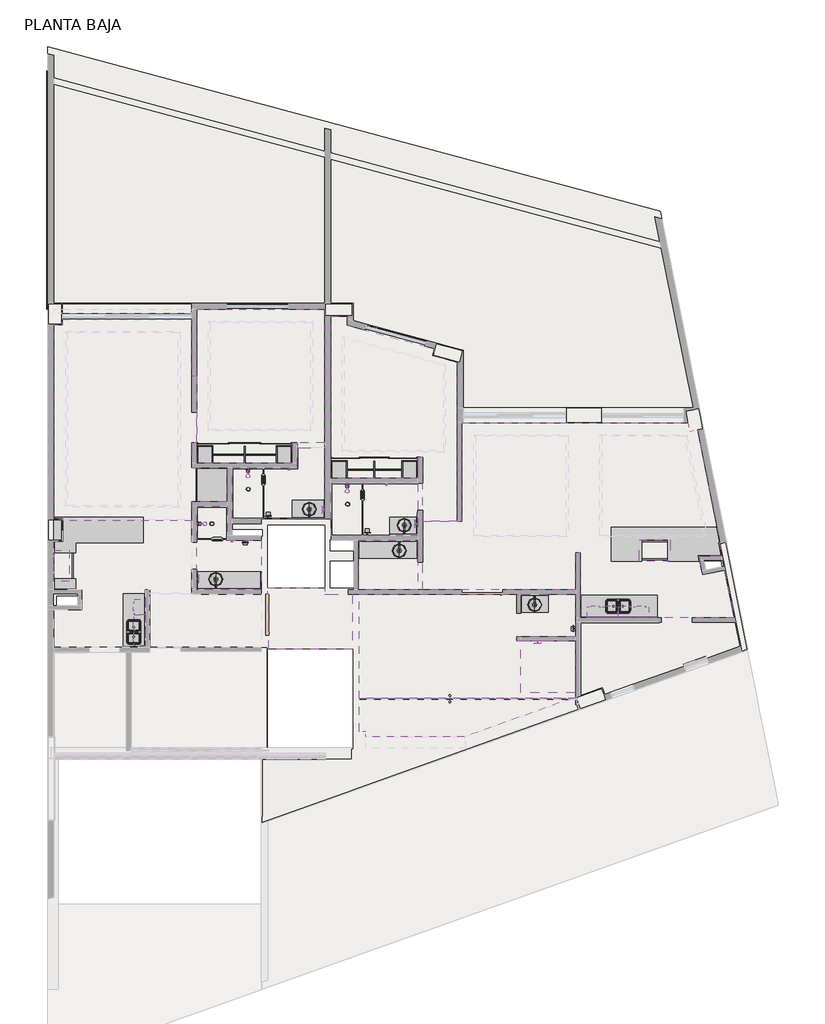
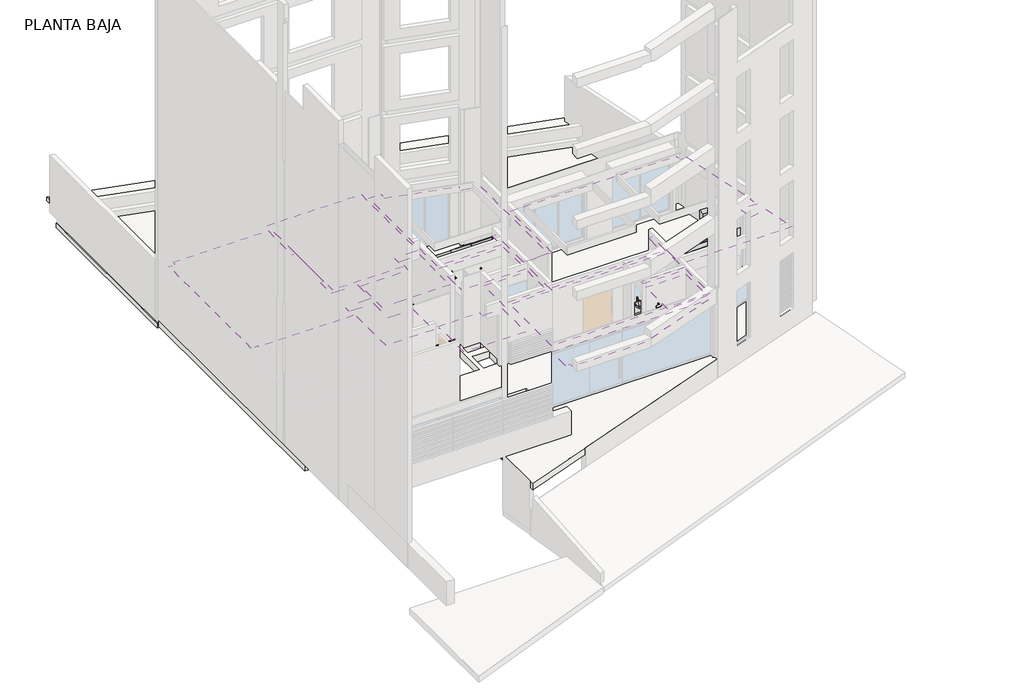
# One storey, part 8 of 8: 32 flow terminals, 31 furniture elements, 12 coverings, 3 slabs, 2 proxies.
"""IFC4 building model written with IfcOpenShell, lengths in millimetres."""

from ifc_helpers import new_model, si_unit, frame, origin, place, context, project, spatial, polyline, outline, extrude, faceted_brep, transform, mapped, element, save
from components import specialty_equipment_e95493f8, specialty_equipment_230eec82, flow_terminal_a2814962, flow_terminal_5cc0e8a1, flow_terminal_a7820e30, flow_terminal_68213279, flow_terminal_5f1bfaf6, flow_terminal_4524fc21, flow_terminal_6c50e432, flow_terminal_979eccb3, flow_terminal_b4af5928, flow_terminal_bcb3a9d6, flow_terminal_02720d88, flow_terminal_c6eb5854, flow_terminal_a64c8540, flow_terminal_974a7598, flow_terminal_6881f88f, flow_terminal_dbe0ad42, furniture_a8ddcfd3, furniture_091fd89b, furniture_2ba004f8, furniture_695d730f, furniture_c1e19565, furniture_76cf8c88, furniture_5ef42d0a, furniture_d922bd9b, furniture_9d35b11e, furniture_d21489d5, furniture_300_mm_33a7f38e, furniture_400_mm_prof_40_ac4916a1, furniture_450_x_600_x_320_mm_b980701e, furniture_64_mm_1e2b4716, furniture_660_mm_2161e34f, furniture_7700_mm_prof_40_e6cee792, furniture_860_mm_d80aeb4c, furniture_900_mm_f7b05b38, furniture_900_x_600_x_320_mm_ed7ff752, cl1_closet_f532f73a, cl2_closet_fc385fcd, closet_bajo_tv_1_puerta_doble_0b8a0936, cubierta_cubierta_f0816a31, cubierta1_cubierta_86d69f64

model = new_model("IFC4")

# Units and contexts
model_context = context("Model", 3, world=origin())
ifc_project = project(units=[si_unit("LENGTHUNIT", "METRE", prefix="MILLI")], contexts=[model_context])

# Site, building, storey
site = spatial("IfcSite", under=ifc_project)
building = spatial("IfcBuilding", under=site)
storey = spatial("IfcBuildingStorey", under=building, Name="PLANTA BAJA", Elevation=0.0)

# Proxies
placement = place(None, origin())
specialty_equipment_shape = specialty_equipment_e95493f8(model_context)
element("IfcBuildingElementProxy", 1, Name="Campana rectangular - muro : Campana rectangular - muro", ObjectType="Campana rectangular - muro : Campana rectangular - muro", at=placement, inside=storey, context=model_context, shape_type="MappedRepresentation", body=[
    mapped(specialty_equipment_shape, transform((34277.2089874, 30558.9942017, 250.0), x_axis=(0.0, 1.0, 0.0), y_axis=(-1.0, 0.0, 0.0), z_axis=(0.0, 0.0, 1.0))),
])
specialty_equipment_2_shape = specialty_equipment_230eec82(model_context)
element("IfcBuildingElementProxy", 2, Name="Campana rectangular - isla : Campana rectangular - isla", ObjectType="Campana rectangular - isla : Campana rectangular - isla", at=placement, inside=storey, context=model_context, shape_type="MappedRepresentation", body=[
    mapped(specialty_equipment_2_shape, transform((51766.9822189, 31014.0100923, 250.0), x_axis=(1.0, 0.0, 0.0), y_axis=(0.0, 1.0, 0.0), z_axis=(0.0, 0.0, 1.0))),
])

# Coverings
element("IfcCovering", 3, ObjectType="Plafond Tablaroca", at=placement, inside=storey, context=model_context, shape_type="SweptSolid", body=[
    extrude(outline(polyline([(44824.5251366, 31304.0104754), (44824.5251366, 29864.010184), (43074.5059119, 29864.010184), (43074.5059119, 31304.0104754), (44824.5251366, 31304.0104754)])), frame((0.0, 0.0, 2350.0), z_axis=(0.0, 0.0, 1.0), x_axis=(1.0, 0.0, 0.0)), (0.0, 0.0, 1.0), 52.7),
])
element("IfcCovering", 4, ObjectType="Plafond Tablaroca", at=placement, inside=storey, context=model_context, shape_type="SweptSolid", body=[
    extrude(outline(polyline([(47844.5059119, 26843.4657915), (47844.5059119, 28356.610184), (49444.5059119, 28356.610184), (49444.5059119, 26843.4657915), (47844.5059119, 26843.4657915)])), frame((0.0, 0.0, 2400.0), z_axis=(0.0, 0.0, 1.0), x_axis=(1.0, 0.0, 0.0)), (0.0, 0.0, 1.0), 52.7),
])
element("IfcCovering", 5, ObjectType="Plafond Tablaroca", at=placement, inside=storey, context=model_context, shape_type="SweptSolid", body=[
    extrude(outline(polyline([(44824.5251366, 31444.0104754), (42279.5059119, 31444.0104754), (42279.5059119, 31838.9733508), (42264.5059119, 31838.9733508), (42264.5059119, 32984.0113856), (44824.5251366, 32984.0113856), (44824.5251366, 31444.0104754)])), frame((0.0, 0.0, 2350.0), z_axis=(0.0, 0.0, 1.0), x_axis=(1.0, 0.0, 0.0)), (0.0, 0.0, 1.0), 52.7),
])
element("IfcCovering", 6, ObjectType="Plafond Tablaroca", at=placement, inside=storey, context=model_context, shape_type="SweptSolid", body=[
    extrude(outline(polyline([(39234.5300226, 31304.0104762), (40234.5059119, 31304.0104762), (40234.5059119, 29864.010184), (38334.5300226, 29864.010184), (38334.5300226, 32304.010477), (39234.5300226, 32304.010477), (39234.5300226, 31304.0104762)])), frame((0.0, 0.0, 2350.0), z_axis=(0.0, 0.0, 1.0), x_axis=(1.0, 0.0, 0.0)), (0.0, 0.0, 1.0), 52.7),
])
element("IfcCovering", 7, ObjectType="Plafond Tablaroca", at=placement, inside=storey, context=model_context, shape_type="SweptSolid", body=[
    extrude(outline(polyline([(42084.5059119, 31933.9733508), (40329.5059119, 31933.9733508), (39374.5300226, 31933.9733508), (39374.5300226, 33428.9784839), (41284.5059119, 33428.9784839), (41284.5059119, 34028.9785701), (42084.5059119, 34028.9785701), (42084.5059119, 31933.9733508)])), frame((0.0, 0.0, 2350.0), z_axis=(0.0, 0.0, 1.0), x_axis=(1.0, 0.0, 0.0)), (0.0, 0.0, 1.0), 52.7),
])
element("IfcCovering", 8, ObjectType="Plafond Tablaroca", at=placement, inside=storey, context=model_context, shape_type="Brep", body=[
    faceted_brep([(43109.5059119, 26682.1657915, 2652.7), (49444.5059119, 26682.1657915, 2652.7), (49444.5059119, 28356.610184, 2652.7), (47727.1059119, 28356.610184, 2652.7), (47727.1059119, 28474.010184, 2652.7), (47844.5059119, 28474.010184, 2652.7), (49444.5059119, 28474.010184, 2652.7), (49444.5059119, 29724.010184, 2652.7), (47844.5059119, 29724.010184, 2652.7), (47727.1059119, 29724.010184, 2652.7), (44894.5251366, 29724.010184, 2652.7), (43109.5059119, 29724.010184, 2652.7), (43109.5059119, 26682.1657915, 2600.0), (43109.5059119, 29724.010184, 2600.0), (44894.5251366, 29724.010184, 2600.0), (47727.1059119, 29724.010184, 2600.0), (47844.5059119, 29724.010184, 2600.0), (49444.5059119, 29724.010184, 2600.0), (49444.5059119, 28474.010184, 2600.0), (47844.5059119, 28474.010184, 2600.0), (47727.1059119, 28474.010184, 2600.0), (47727.1059119, 28356.610184, 2600.0), (49444.5059119, 28356.610184, 2600.0), (49444.5059119, 26682.1657915, 2600.0)], [[[0, 1, 2, 3, 4, 5, 6, 7, 8, 9, 10, 11]], [[12, 13, 14, 15, 16, 17, 18, 19, 20, 21, 22, 23]], [[1, 0, 12, 23]], [[4, 3, 21, 20]], [[6, 5, 4, 20, 19, 18]], [[7, 6, 18, 17]], [[10, 9, 8, 7, 17, 16, 15, 14]], [[11, 10, 14, 13]], [[0, 11, 13, 12]], [[2, 1, 23, 22]], [[3, 2, 22, 21]]]),
])
element("IfcCovering", 9, ObjectType="Plafond Tablaroca", at=placement, inside=storey, context=model_context, shape_type="SweptSolid", body=[
    extrude(outline(polyline([(42089.5059119, 29913.9733508), (42089.5059119, 29724.010184), (42899.5059119, 29724.010184), (42899.5059119, 28111.0432167), (40444.5059119, 28111.0432167), (40444.5059119, 29724.010184), (40424.5059119, 29724.010184), (40424.5059119, 29913.9733508), (42089.5059119, 29913.9733508)])), frame((0.0, 0.0, 2400.0), z_axis=(0.0, 0.0, 1.0), x_axis=(1.0, 0.0, 0.0)), (0.0, 0.0, 1.0), 52.7),
])
element("IfcCovering", 10, ObjectType="Plafond Tablaroca", at=placement, inside=storey, context=model_context, shape_type="Brep", body=[
    faceted_brep([(42084.5059119, 38080.4026232, 2502.7), (38334.5300226, 38080.4026232, 2502.7), (38334.5300226, 36136.8345544, 2502.7), (38334.5300226, 36124.6905967, 2502.7), (38334.5300226, 34168.9785701, 2502.7), (38334.5300226, 33568.9784839, 2502.7), (41144.5059119, 33568.9784839, 2502.7), (41144.5059119, 34168.9785701, 2502.7), (42084.5059119, 34168.9785701, 2502.7), (38734.5300226, 37680.4026232, 2502.7), (41684.5059119, 37680.4026232, 2502.7), (41684.5059119, 34568.9785701, 2502.7), (38734.5300226, 34568.9785701, 2502.7), (38334.5300226, 38080.4026232, 2450.0), (42084.5059119, 38080.4026232, 2450.0), (42084.5059119, 34168.9785701, 2450.0), (41144.5059119, 34168.9785701, 2450.0), (41144.5059119, 33568.9784839, 2450.0), (38334.5300226, 33568.9784839, 2450.0), (38334.5300226, 34168.9785701, 2450.0), (38334.5300226, 36124.6905967, 2450.0), (38334.5300226, 36136.8345544, 2450.0), (41684.5059119, 37680.4026232, 2450.0), (38734.5300226, 37680.4026232, 2450.0), (38734.5300226, 34568.9785701, 2450.0), (41684.5059119, 34568.9785701, 2450.0)], [[[0, 1, 2, 3, 4, 5, 6, 7, 8], [9, 10, 11, 12]], [[13, 14, 15, 16, 17, 18, 19, 20, 21], [22, 23, 24, 25]], [[1, 0, 14, 13]], [[1, 13, 21, 20, 19, 4, 3, 2]], [[5, 4, 19, 18]], [[6, 5, 18, 17]], [[7, 6, 17, 16]], [[8, 7, 16, 15]], [[0, 8, 15, 14]], [[10, 9, 23, 22]], [[11, 10, 22, 25]], [[12, 11, 25, 24]], [[9, 12, 24, 23]]]),
])
element("IfcCovering", 11, ObjectType="Plafond Tablaroca", at=placement, inside=storey, context=model_context, shape_type="Brep", body=[
    faceted_brep([(38194.5300226, 37790.7875956, 2502.7), (34398.8589874, 37790.7875956, 2502.7), (34398.8589874, 37625.4026232, 2502.7), (34143.8589874, 37625.4026232, 2502.7), (34143.8589874, 31928.9733508, 2502.7), (34403.8589874, 31928.9733508, 2502.7), (34403.8589874, 31876.2733508, 2502.7), (38194.5300226, 31876.2733508, 2502.7), (38194.5300226, 32444.010477, 2502.7), (39234.5300226, 32444.010477, 2502.7), (39234.5300226, 33428.9784839, 2502.7), (38194.5300226, 33428.9784839, 2502.7), (38194.5300226, 34168.9785701, 2502.7), (38334.5300226, 34168.9785701, 2502.7), (38334.5300226, 36124.6905967, 2502.7), (38334.5300226, 36136.8345544, 2502.7), (38194.5300226, 36136.8345544, 2502.7), (37794.5300226, 37390.7875956, 2502.7), (37794.5300226, 32333.9733508, 2502.7), (34542.7408562, 32333.9733508, 2502.7), (34542.7408562, 37390.7875956, 2502.7), (38194.5300226, 37790.7875956, 2450.0), (38194.5300226, 36136.8345544, 2450.0), (38334.5300226, 36136.8345544, 2450.0), (38334.5300226, 36124.6905967, 2450.0), (38334.5300226, 34168.9785701, 2450.0), (38194.5300226, 34168.9785701, 2450.0), (38194.5300226, 33428.9784839, 2450.0), (39234.5300226, 33428.9784839, 2450.0), (39234.5300226, 32444.010477, 2450.0), (38194.5300226, 32444.010477, 2450.0), (38194.5300226, 31928.9733508, 2450.0), (38194.5300226, 31876.2733508, 2450.0), (34403.8589874, 31876.2733508, 2450.0), (34403.8589874, 31928.9733508, 2450.0), (34143.8589874, 31928.9733508, 2450.0), (34143.8589874, 37625.4026232, 2450.0), (34398.8589874, 37625.4026232, 2450.0), (34398.8589874, 37790.7875956, 2450.0), (37794.5300226, 37390.7875956, 2450.0), (34542.7408562, 37390.7875956, 2450.0), (34542.7408562, 32333.9733508, 2450.0), (37794.5300226, 32333.9733508, 2450.0)], [[[0, 1, 2, 3, 4, 5, 6, 7, 8, 9, 10, 11, 12, 13, 14, 15, 16], [17, 18, 19, 20]], [[21, 22, 23, 24, 25, 26, 27, 28, 29, 30, 31, 32, 33, 34, 35, 36, 37, 38], [39, 40, 41, 42]], [[1, 0, 21, 38]], [[6, 5, 34, 33]], [[8, 7, 32, 31, 30]], [[9, 8, 30, 29]], [[10, 9, 29, 28]], [[11, 10, 28, 27]], [[12, 11, 27, 26]], [[2, 1, 38, 37]], [[3, 2, 37, 36]], [[4, 3, 36, 35]], [[5, 4, 35, 34]], [[13, 12, 26, 25]], [[14, 13, 25, 24]], [[15, 14, 24, 23]], [[16, 15, 23, 22]], [[0, 16, 22, 21]], [[18, 17, 39, 42]], [[19, 18, 42, 41]], [[20, 19, 41, 40]], [[17, 20, 40, 39]], [[7, 6, 33, 32]]]),
])
element("IfcCovering", 12, ObjectType="Plafond Tablaroca", at=placement, inside=storey, context=model_context, shape_type="SweptSolid", body=[
    extrude(outline(polyline([(42264.5059119, 33124.0113856), (42264.5059119, 37875.4026232), (42744.5059119, 37875.4026232), (42744.5059119, 37612.0750171), (45306.6362479, 36923.1191455), (45253.4028147, 36725.1514674), (45974.5059119, 36531.2471191), (45974.5059119, 31864.0100656), (44964.5251366, 31864.0100656), (44964.5251366, 33744.0113898), (44824.5251366, 33744.0113898), (44824.5251366, 33124.0113856), (42264.5059119, 33124.0113856)]), holes=[polyline([(45574.5059119, 33944.0113898), (45574.5059119, 36436.8800645), (42664.5059119, 37219.3779563), (42664.5059119, 33944.0113898), (45574.5059119, 33944.0113898)])]), frame((0.0, 0.0, 2350.0), z_axis=(0.0, 0.0, 1.0), x_axis=(1.0, 0.0, 0.0)), (0.0, 0.0, 1.0), 52.7),
])
element("IfcCovering", 13, ObjectType="Plafond Tablaroca", at=placement, inside=storey, context=model_context, shape_type="Brep", body=[
    faceted_brep([(44964.5251366, 29864.010184, 2402.7), (49444.5059119, 29864.010184, 2402.7), (49444.5059119, 30944.0100923, 2402.7), (49584.5059119, 30944.0100923, 2402.7), (49584.5059119, 29044.0100923, 2402.7), (54096.9995848, 29044.0100923, 2402.7), (53820.4344465, 30424.8416261, 2402.7), (53171.4946911, 30294.866239, 2402.7), (53061.5073088, 30844.0100923, 2402.7), (53736.479683, 30844.0100923, 2402.7), (53659.7028791, 31227.3405166, 2402.7), (53689.1186644, 31233.2321699, 2402.7), (53023.9513461, 34554.2726084, 2402.7), (52788.6250642, 34507.1393817, 2402.7), (52739.1795428, 34754.0104642, 2402.7), (46114.5059119, 34754.0104642, 2402.7), (46114.5059119, 31864.0100656, 2402.7), (45974.5059119, 31864.0100656, 2402.7), (44964.5251366, 31864.0100656, 2402.7), (49174.5059119, 34354.0104642, 2402.7), (49174.5059119, 31464.0100656, 2402.7), (46514.5059119, 31464.0100656, 2402.7), (46514.5059119, 34354.0104642, 2402.7), (50214.4822189, 31464.0100656, 2402.7), (50214.4822189, 34354.0104642, 2402.7), (52656.1173826, 34354.0104642, 2402.7), (53234.9521938, 31464.0100656, 2402.7), (44964.5251366, 29864.010184, 2350.0), (44964.5251366, 31864.0100656, 2350.0), (45974.5059119, 31864.0100656, 2350.0), (46114.5059119, 31864.0100656, 2350.0), (46114.5059119, 34754.0104642, 2350.0), (52739.1795428, 34754.0104642, 2350.0), (52788.6250642, 34507.1393817, 2350.0), (53023.9513461, 34554.2726084, 2350.0), (53689.1186644, 31233.2321699, 2350.0), (53659.7028791, 31227.3405166, 2350.0), (53736.479683, 30844.0100923, 2350.0), (53061.5073088, 30844.0100923, 2350.0), (53171.4946911, 30294.866239, 2350.0), (53820.4344465, 30424.8416261, 2350.0), (54096.9995848, 29044.0100923, 2350.0), (49584.5059119, 29044.0100923, 2350.0), (49584.5059119, 30944.0100923, 2350.0), (49444.5059119, 30944.0100923, 2350.0), (49444.5059119, 29864.010184, 2350.0), (49174.5059119, 34354.0104642, 2350.0), (46514.5059119, 34354.0104642, 2350.0), (46514.5059119, 31464.0100656, 2350.0), (49174.5059119, 31464.0100656, 2350.0), (50214.4822189, 31464.0100656, 2350.0), (53234.9521938, 31464.0100656, 2350.0), (52656.1173826, 34354.0104642, 2350.0), (50214.4822189, 34354.0104642, 2350.0)], [[[0, 1, 2, 3, 4, 5, 6, 7, 8, 9, 10, 11, 12, 13, 14, 15, 16, 17, 18], [19, 20, 21, 22], [23, 24, 25, 26]], [[27, 28, 29, 30, 31, 32, 33, 34, 35, 36, 37, 38, 39, 40, 41, 42, 43, 44, 45], [46, 47, 48, 49], [50, 51, 52, 53]], [[1, 0, 27, 45]], [[2, 1, 45, 44]], [[3, 2, 44, 43]], [[4, 3, 43, 42]], [[5, 4, 42, 41]], [[6, 5, 41, 40]], [[7, 6, 40, 39]], [[8, 7, 39, 38]], [[9, 8, 38, 37]], [[10, 9, 37, 36]], [[11, 10, 36, 35]], [[12, 11, 35, 34]], [[13, 12, 34, 33]], [[14, 13, 33, 32]], [[15, 14, 32, 31]], [[16, 15, 31, 30]], [[18, 17, 16, 30, 29, 28]], [[0, 18, 28, 27]], [[20, 19, 46, 49]], [[21, 20, 49, 48]], [[22, 21, 48, 47]], [[19, 22, 47, 46]], [[24, 23, 50, 53]], [[25, 24, 53, 52]], [[26, 25, 52, 51]], [[23, 26, 51, 50]]]),
])
element("IfcCovering", 14, ObjectType="Plafond Tablaroca", at=placement, inside=storey, context=model_context, shape_type="SweptSolid", body=[
    extrude(outline(polyline([(46181.4938279, 25545.2541962), (43289.5059119, 25545.2541962), (43289.5059119, 25694.0112971), (43109.5059119, 25694.0112971), (43109.5059119, 26682.1657915), (49371.8971857, 26682.1657915), (46181.4938279, 25545.2541962)])), frame((0.0, 0.0, 2350.0), z_axis=(0.0, 0.0, 1.0), x_axis=(1.0, 0.0, 0.0)), (0.0, 0.0, 1.0), 52.7),
])

# Flow terminals
flow_terminal_shape = flow_terminal_a2814962(model_context)
element("IfcFlowTerminal", 15, ObjectType="Ovalin sobreponer maia - vitromex : Accesorios_baño", at=placement, inside=storey, context=model_context, shape_type="MappedRepresentation", body=[
    mapped(flow_terminal_shape, transform((44274.5251366, 31001.9733508, 0.0), x_axis=(0.0, -1.0, 0.0), y_axis=(1.0, 0.0, 0.0), z_axis=(0.0, 0.0, 1.0))),
])
element("IfcFlowTerminal", 16, ObjectType="Ovalin sobreponer maia - vitromex : Accesorios_baño", at=placement, inside=storey, context=model_context, shape_type="MappedRepresentation", body=[
    mapped(flow_terminal_shape, transform((48244.5059119, 29418.4704552, 0.0), x_axis=(0.0, -1.0, 0.0), y_axis=(1.0, 0.0, 0.0), z_axis=(0.0, 0.0, 1.0))),
])
element("IfcFlowTerminal", 17, ObjectType="Ovalin sobreponer maia - vitromex : Accesorios_baño", at=placement, inside=storey, context=model_context, shape_type="MappedRepresentation", body=[
    mapped(flow_terminal_shape, transform((38899.5059119, 30166.0473102, 0.0), x_axis=(0.0, 1.0, 0.0), y_axis=(-1.0, 0.0, 0.0), z_axis=(0.0, 0.0, 1.0))),
])
flow_terminal_2_shape = flow_terminal_5cc0e8a1(model_context)
element("IfcFlowTerminal", 18, ObjectType="monomando lavabo - tubo : monomando lavabo - tubo", at=placement, inside=storey, context=model_context, shape_type="MappedRepresentation", body=[
    mapped(flow_terminal_2_shape, transform((44274.5251366, 31241.9733508, 0.0), x_axis=(1.0, 0.0, 0.0), y_axis=(0.0, 1.0, 0.0), z_axis=(0.0, 0.0, 1.0))),
])
element("IfcFlowTerminal", 19, ObjectType="monomando lavabo - tubo : monomando lavabo - tubo", at=placement, inside=storey, context=model_context, shape_type="MappedRepresentation", body=[
    mapped(flow_terminal_2_shape, transform((48244.5059119, 29658.4704552, 0.0), x_axis=(1.0, 0.0, 0.0), y_axis=(0.0, 1.0, 0.0), z_axis=(0.0, 0.0, 1.0))),
])
element("IfcFlowTerminal", 20, ObjectType="monomando lavabo - tubo : monomando lavabo - tubo", at=placement, inside=storey, context=model_context, shape_type="MappedRepresentation", body=[
    mapped(flow_terminal_2_shape, transform((38899.5059119, 29926.0473102, 0.0), x_axis=(-1.0, 0.0, 0.0), y_axis=(0.0, -1.0, 0.0), z_axis=(0.0, 0.0, 1.0))),
])
flow_terminal_3_shape = flow_terminal_a7820e30(model_context)
element("IfcFlowTerminal", 21, ObjectType="monomando lavabo - tubo : monomando lavabo - tubo", at=placement, inside=storey, context=model_context, shape_type="MappedRepresentation", body=[
    mapped(flow_terminal_3_shape, transform((41634.5059119, 31978.9733508, 0.0), x_axis=(1.0, 0.0, 0.0), y_axis=(0.0, 1.0, 0.0), z_axis=(0.0, 0.0, 1.0))),
])
element("IfcFlowTerminal", 22, ObjectType="monomando lavabo - tubo : monomando lavabo - tubo", at=placement, inside=storey, context=model_context, shape_type="MappedRepresentation", body=[
    mapped(flow_terminal_3_shape, transform((44424.5034689, 31514.0104755, 0.0), x_axis=(1.0, 0.0, 0.0), y_axis=(0.0, 1.0, 0.0), z_axis=(0.0, 0.0, 1.0))),
])
flow_terminal_4_shape = flow_terminal_68213279(model_context)
element("IfcFlowTerminal", 23, ObjectType="Ovalin sobreponer maia - vitromex : Accesorios_baño", at=placement, inside=storey, context=model_context, shape_type="MappedRepresentation", body=[
    mapped(flow_terminal_4_shape, transform((41634.5059119, 32218.9733508, 0.0), x_axis=(0.0, 1.0, 0.0), y_axis=(-1.0, 0.0, 0.0), z_axis=(0.0, 0.0, 1.0))),
])
element("IfcFlowTerminal", 24, ObjectType="Ovalin sobreponer maia - vitromex : Accesorios_baño", at=placement, inside=storey, context=model_context, shape_type="MappedRepresentation", body=[
    mapped(flow_terminal_4_shape, transform((44424.5034689, 31754.0104755, 0.0), x_axis=(0.0, 1.0, 0.0), y_axis=(-1.0, 0.0, 0.0), z_axis=(0.0, 0.0, 1.0))),
])
flow_terminal_5_shape = flow_terminal_5f1bfaf6(model_context)
element("IfcFlowTerminal", 25, ObjectType="Regadera : Accesorios_baño", at=placement, inside=storey, context=model_context, shape_type="MappedRepresentation", body=[
    mapped(flow_terminal_5_shape, transform((39964.5300226, 33498.9784839, 151.7905899), x_axis=(-1.0, 0.0, 0.0), y_axis=(0.0, -1.0, 0.0), z_axis=(0.0, 0.0, 1.0))),
])
element("IfcFlowTerminal", 26, ObjectType="Regadera : Accesorios_baño", at=placement, inside=storey, context=model_context, shape_type="MappedRepresentation", body=[
    mapped(flow_terminal_5_shape, transform((38264.5300226, 31919.010477, 151.7905899), x_axis=(0.0, -1.0, 0.0), y_axis=(1.0, 0.0, 0.0), z_axis=(0.0, 0.0, 1.0))),
])
flow_terminal_6_shape = flow_terminal_4524fc21(model_context)
element("IfcFlowTerminal", 27, ObjectType="Toallero Dica 1009 : Toallero Dica manos 1009", at=placement, inside=storey, context=model_context, shape_type="MappedRepresentation", body=[
    mapped(flow_terminal_6_shape, transform((42174.5059119, 32078.9733508, 1548.657459), x_axis=(0.0, 1.0, 0.0), y_axis=(-1.0, 0.0, 0.0), z_axis=(0.0, 0.0, 1.0))),
])
flow_terminal_7_shape = flow_terminal_6c50e432(model_context)
element("IfcFlowTerminal", 28, ObjectType="Portarrollo Dica 1017 : Portarrollos Dica 1017", at=placement, inside=storey, context=model_context, shape_type="MappedRepresentation", body=[
    mapped(flow_terminal_7_shape, transform((40305.6006283, 31943.9733508, 502.2787162), x_axis=(1.0, 0.0, 0.0), y_axis=(0.0, 1.0, 0.0), z_axis=(0.0, 0.0, 1.0))),
])
element("IfcFlowTerminal", 29, ObjectType="Portarrollo Dica 1017 : Portarrollos Dica 1017", at=placement, inside=storey, context=model_context, shape_type="MappedRepresentation", body=[
    mapped(flow_terminal_7_shape, transform((43214.5059119, 31454.0104754, 502.2787162), x_axis=(1.0, 0.0, 0.0), y_axis=(0.0, 1.0, 0.0), z_axis=(0.0, 0.0, 1.0))),
])
flow_terminal_8_shape = flow_terminal_979eccb3(model_context)
element("IfcFlowTerminal", 30, ObjectType="Monomando Dica 4473.9 : Accesorios_baño", at=placement, inside=storey, context=model_context, shape_type="MappedRepresentation", body=[
    mapped(flow_terminal_8_shape, transform((39964.5300226, 33418.9784839, 0.0), x_axis=(-1.0, 0.0, 0.0), y_axis=(0.0, -1.0, 0.0), z_axis=(0.0, 0.0, 1.0))),
])
element("IfcFlowTerminal", 31, ObjectType="Monomando Dica 4473.9 : Accesorios_baño", at=placement, inside=storey, context=model_context, shape_type="MappedRepresentation", body=[
    mapped(flow_terminal_8_shape, transform((42874.5059119, 32974.0113856, -2.8674323), x_axis=(-1.0, 0.0, 0.0), y_axis=(0.0, -1.0, 0.0), z_axis=(0.0, 0.0, 1.0))),
])
element("IfcFlowTerminal", 32, ObjectType="Monomando Dica 4473.9 : Accesorios_baño", at=placement, inside=storey, context=model_context, shape_type="MappedRepresentation", body=[
    mapped(flow_terminal_8_shape, transform((38344.5300226, 31919.010477, 0.0), x_axis=(0.0, -1.0, 0.0), y_axis=(1.0, 0.0, 0.0), z_axis=(0.0, 0.0, 1.0))),
])
flow_terminal_9_shape = flow_terminal_b4af5928(model_context)
element("IfcFlowTerminal", 33, ObjectType="Coladera : COLADERA PARA REGADERA", at=placement, inside=storey, context=model_context, shape_type="MappedRepresentation", body=[
    mapped(flow_terminal_9_shape, transform((39847.2800226, 32808.9784839, 0.0), x_axis=(1.0, 0.0, 0.0), y_axis=(0.0, 1.0, 0.0), z_axis=(0.0, 0.0, 1.0))),
])
element("IfcFlowTerminal", 34, ObjectType="Coladera : COLADERA PARA REGADERA", at=placement, inside=storey, context=model_context, shape_type="MappedRepresentation", body=[
    mapped(flow_terminal_9_shape, transform((42759.5059119, 32364.0113856, 0.0), x_axis=(1.0, 0.0, 0.0), y_axis=(0.0, 1.0, 0.0), z_axis=(0.0, 0.0, 1.0))),
])
element("IfcFlowTerminal", 35, ObjectType="Coladera : COLADERA PARA REGADERA", at=placement, inside=storey, context=model_context, shape_type="MappedRepresentation", body=[
    mapped(flow_terminal_9_shape, transform((38784.5300226, 31794.010477, 0.0), x_axis=(1.0, 0.0, 0.0), y_axis=(0.0, 1.0, 0.0), z_axis=(0.0, 0.0, 1.0))),
])
flow_terminal_10_shape = flow_terminal_bcb3a9d6(model_context)
element("IfcFlowTerminal", 36, ObjectType="Toallero gancho Dica 1006 : Toallero gancho Dica 1006", at=placement, inside=storey, context=model_context, shape_type="MappedRepresentation", body=[
    mapped(flow_terminal_10_shape, transform((41169.5059119, 33418.9784839, 1795.0), x_axis=(-1.0, 0.0, 0.0), y_axis=(0.0, -1.0, 0.0), z_axis=(0.0, 0.0, 1.0))),
])
element("IfcFlowTerminal", 37, ObjectType="Toallero gancho Dica 1006 : Toallero gancho Dica 1006", at=placement, inside=storey, context=model_context, shape_type="MappedRepresentation", body=[
    mapped(flow_terminal_10_shape, transform((44024.5059119, 32974.0113856, 1795.0), x_axis=(-1.0, 0.0, 0.0), y_axis=(0.0, -1.0, 0.0), z_axis=(0.0, 0.0, 1.0))),
])
element("IfcFlowTerminal", 38, ObjectType="Regadera : Accesorios_baño", at=placement, inside=storey, context=model_context, shape_type="MappedRepresentation", body=[
    mapped(flow_terminal_5_shape, transform((42874.5059119, 33054.0113856, 151.7905899), x_axis=(-1.0, 0.0, 0.0), y_axis=(0.0, -1.0, 0.0), z_axis=(0.0, 0.0, 1.0))),
])
flow_terminal_11_shape = flow_terminal_02720d88(model_context)
element("IfcFlowTerminal", 39, ObjectType="Toallero Dica 1009 : Toallero Dica manos 1009", at=placement, inside=storey, context=model_context, shape_type="MappedRepresentation", body=[
    mapped(flow_terminal_11_shape, transform((44814.5251366, 31664.0109305, 1548.657459), x_axis=(0.0, 1.0, 0.0), y_axis=(-1.0, 0.0, 0.0), z_axis=(0.0, 0.0, 1.0))),
])
flow_terminal_12_shape = flow_terminal_c6eb5854(model_context)
element("IfcFlowTerminal", 40, ObjectType="Toallero Dica 1009 : Toallero Dica manos 1009", at=placement, inside=storey, context=model_context, shape_type="MappedRepresentation", body=[
    mapped(flow_terminal_12_shape, transform((48454.4828826, 28415.310184, 1548.657459), x_axis=(-1.0, 0.0, 0.0), y_axis=(0.0, -1.0, 0.0), z_axis=(0.0, 0.0, 1.0))),
])
flow_terminal_13_shape = flow_terminal_a64c8540(model_context)
element("IfcFlowTerminal", 41, ObjectType="Portarrollo Dica 1017 : Portarrollos Dica 1017", at=placement, inside=storey, context=model_context, shape_type="MappedRepresentation", body=[
    mapped(flow_terminal_13_shape, transform((39889.5300226, 31374.010477, 502.2787162), x_axis=(-1.0, 0.0, 0.0), y_axis=(0.0, -1.0, 0.0), z_axis=(0.0, 0.0, 1.0))),
])
flow_terminal_14_shape = flow_terminal_974a7598(model_context)
element("IfcFlowTerminal", 42, ObjectType="Toallero Dica 1009 : Toallero Dica manos 1009", at=placement, inside=storey, context=model_context, shape_type="MappedRepresentation", body=[
    mapped(flow_terminal_14_shape, transform((38264.5300226, 30299.010184, 1548.657459), x_axis=(0.0, -1.0, 0.0), y_axis=(1.0, 0.0, 0.0), z_axis=(0.0, 0.0, 1.0))),
])
element("IfcFlowTerminal", 43, ObjectType="Portarrollo Dica 1017 : Portarrollos Dica 1017", at=placement, inside=storey, context=model_context, shape_type="MappedRepresentation", body=[
    mapped(flow_terminal_13_shape, transform((49514.5059119, 28590.310184, 502.2787162), x_axis=(0.0, 1.0, 0.0), y_axis=(-1.0, 0.0, 0.0), z_axis=(0.0, 0.0, 1.0))),
])
flow_terminal_15_shape = flow_terminal_6881f88f(model_context)
element("IfcFlowTerminal", 44, ObjectType="Toallero gancho Dica 1006 : Toallero gancho Dica 1006", at=placement, inside=storey, context=model_context, shape_type="MappedRepresentation", body=[
    mapped(flow_terminal_15_shape, transform((39489.5300226, 31374.010477, 1795.0), x_axis=(-1.0, 0.0, 0.0), y_axis=(0.0, -1.0, 0.0), z_axis=(0.0, 0.0, 1.0))),
])
flow_terminal_16_shape = flow_terminal_dbe0ad42(model_context)
element("IfcFlowTerminal", 45, ObjectType="Tarja Teka subm BE 780 : TARJA PARA COCINA", at=placement, inside=storey, context=model_context, shape_type="MappedRepresentation", body=[
    mapped(flow_terminal_16_shape, transform((50638.3166714, 29356.1646912, -37.1), x_axis=(1.0, 0.0, 0.0), y_axis=(0.0, 1.0, 0.0), z_axis=(0.0, 0.0, 1.0))),
])
element("IfcFlowTerminal", 46, ObjectType="Tarja Teka subm BE 780 : TARJA PARA COCINA", at=placement, inside=storey, context=model_context, shape_type="MappedRepresentation", body=[
    mapped(flow_terminal_16_shape, transform((36472.9846215, 28678.2324573, -37.1), x_axis=(0.0, -1.0000000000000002, 0.0), y_axis=(1.0000000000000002, 0.0, 0.0), z_axis=(0.0, 0.0, 1.0))),
])

# Furniture
furniture_shape = furniture_a8ddcfd3(model_context)
element("IfcFurniture", 47, ObjectType="Puerta Closet corre 3 hojas : Puerta corrdiza 3 hojas PCL-02", at=placement, inside=storey, context=model_context, shape_type="MappedRepresentation", body=[
    mapped(furniture_shape, transform((43554.5251366, 33624.0113898, 0.0), x_axis=(1.0, 0.0, 0.0), y_axis=(0.0, 1.0, 0.0), z_axis=(0.0, 0.0, 1.0))),
])
furniture_2_shape = furniture_091fd89b(model_context)
element("IfcFurniture", 48, ObjectType="Puerta Closet corre 3 hojas : Puerta corrdiza 3 hojas PCL-01", at=placement, inside=storey, context=model_context, shape_type="MappedRepresentation", body=[
    mapped(furniture_2_shape, transform((39624.5300226, 34048.9785701, 0.0), x_axis=(1.0, 0.0, 0.0), y_axis=(0.0, 1.0, 0.0), z_axis=(0.0, 0.0, 1.0))),
])
furniture_3_shape = furniture_2ba004f8(model_context)
element("IfcFurniture", 49, ObjectType="Mueble colgado 1 cajon - lavabo sobreponer : MB1b-mueble baño colgado-1 cajon - 90cm", at=placement, inside=storey, context=model_context, shape_type="MappedRepresentation", body=[
    mapped(furniture_3_shape, transform((41484.5059119, 31943.9733508, 0.0), x_axis=(1.0, 0.0, 0.0), y_axis=(0.0, 1.0, 0.0), z_axis=(0.0, 0.0, 1.0))),
])
furniture_4_shape = furniture_695d730f(model_context)
element("IfcFurniture", 50, ObjectType="Mueble colgado 1 cajon - lavabo sobreponer : MB4-mueble baño colgado-1 cajon 80 cm", at=placement, inside=storey, context=model_context, shape_type="MappedRepresentation", body=[
    mapped(furniture_4_shape, transform((44279.5251366, 31454.0104754, 0.0), x_axis=(1.0, 0.0, 0.0), y_axis=(0.0, 1.0, 0.0), z_axis=(0.0, 0.0, 1.0))),
])
furniture_5_shape = furniture_c1e19565(model_context)
element("IfcFurniture", 51, ObjectType="Mueble con faldon sin cajones - lavabo sobreponer : MB8-mueble baño colgado- 1.75cm", at=placement, inside=storey, context=model_context, shape_type="MappedRepresentation", body=[
    mapped(furniture_5_shape, transform((44074.5251366, 31374.0104755, 0.0), x_axis=(-1.0, 0.0, 0.0), y_axis=(0.0, -1.0, 0.0), z_axis=(0.0, 0.0, 1.0))),
])
furniture_6_shape = furniture_76cf8c88(model_context)
element("IfcFurniture", 52, ObjectType="Mueble con faldon sin cajones - lavabo sobreponer : MB9-mueble baño colgado-80 cm", at=placement, inside=storey, context=model_context, shape_type="MappedRepresentation", body=[
    mapped(furniture_6_shape, transform((48369.5059119, 29794.010184, 0.0), x_axis=(-1.0, 0.0, 0.0), y_axis=(0.0, -1.0, 0.0), z_axis=(0.0, 0.0, 1.0))),
])
furniture_7_shape = furniture_5ef42d0a(model_context)
element("IfcFurniture", 53, ObjectType="Mueble colgado 1 cajon 1 fijo- lavabo sobreponer : MB10-Mueble baño colgado-1 cajon - 1 fijo", at=placement, inside=storey, context=model_context, shape_type="MappedRepresentation", body=[
    mapped(furniture_7_shape, transform((39134.5059119, 29794.010184, 0.0), x_axis=(1.0, 0.0, 0.0), y_axis=(0.0, 1.0, 0.0), z_axis=(0.0, 0.0, 1.0))),
])
furniture_8_shape = furniture_d922bd9b(model_context)
element("IfcFurniture", 54, ObjectType="ajuste mueble - esquinas1 : ajuste mueble - esquinas", at=placement, inside=storey, context=model_context, shape_type="MappedRepresentation", body=[
    mapped(furniture_8_shape, transform((0.0, 0.0, 0.0), x_axis=(1.0, 0.0, 0.0), y_axis=(0.0, 1.0, 0.0), z_axis=(0.0, 0.0, 1.0))),
])
furniture_9_shape = furniture_9d35b11e(model_context)
element("IfcFurniture", 55, ObjectType="ajuste mueble - esquinas2 : ajuste mueble - esquinas", at=placement, inside=storey, context=model_context, shape_type="MappedRepresentation", body=[
    mapped(furniture_9_shape, transform((0.0, 0.0, 0.0), x_axis=(1.0, 0.0, 0.0), y_axis=(0.0, 1.0, 0.0), z_axis=(0.0, 0.0, 1.0))),
])
furniture_10_shape = furniture_d21489d5(model_context)
element("IfcFurniture", 56, ObjectType="ajuste mueble - esquinas3 : ajuste mueble - esquinas", at=placement, inside=storey, context=model_context, shape_type="MappedRepresentation", body=[
    mapped(furniture_10_shape, transform((18356.9351407, -325.0098305, 0.0), x_axis=(1.0, 0.0, 0.0), y_axis=(0.0, 1.0, 0.0), z_axis=(0.0, 0.0, 1.0))),
])
furniture_300_mm_shape = furniture_300_mm_33a7f38e(model_context)
element("IfcFurniture", 57, ObjectType="Armario 3 cajones : 300 mm", at=placement, inside=storey, context=model_context, shape_type="MappedRepresentation", body=[
    mapped(furniture_300_mm_shape, transform((34163.8589874, 30047.6801335, 0.0), x_axis=(0.0, -1.0, 0.0), y_axis=(1.0, 0.0, 0.0), z_axis=(0.0, 0.0, 1.0))),
])
element("IfcFurniture", 58, ObjectType="Armario 3 cajones : 300 mm", at=placement, inside=storey, context=model_context, shape_type="MappedRepresentation", body=[
    mapped(furniture_300_mm_shape, transform((34163.8589874, 31107.6801335, 0.0), x_axis=(0.0, -1.0, 0.0), y_axis=(1.0, 0.0, 0.0), z_axis=(0.0, 0.0, 1.0))),
])
furniture_400_mm_prof_40_shape = furniture_400_mm_prof_40_ac4916a1(model_context)
element("IfcFurniture", 59, ObjectType="Armario-Una puerta : 400 mm prof 40", at=placement, inside=storey, context=model_context, shape_type="MappedRepresentation", body=[
    mapped(furniture_400_mm_prof_40_shape, transform((36561.2966924, 31671.3005493, 0.0), x_axis=(-1.0, 0.0, 0.0), y_axis=(0.0, -1.0, 0.0), z_axis=(0.0, 0.0, 1.0))),
])
furniture_450_x_600_x_320_mm_shape = furniture_450_x_600_x_320_mm_b980701e(model_context)
element("IfcFurniture", 60, ObjectType="Armario superior - Puerta simple : 450 x 600 x 320 mm", at=placement, inside=storey, context=model_context, shape_type="MappedRepresentation", body=[
    mapped(furniture_450_x_600_x_320_mm_shape, transform((36895.8300226, 29174.010184, 0.0), x_axis=(0.0, 1.0, 0.0), y_axis=(-1.0, 0.0, 0.0), z_axis=(0.0, 0.0, 1.0))),
])
furniture_64_mm_shape = furniture_64_mm_1e2b4716(model_context)
element("IfcFurniture", 61, ObjectType="Armario-Una puerta : 64 mm", at=placement, inside=storey, context=model_context, shape_type="MappedRepresentation", body=[
    mapped(furniture_64_mm_shape, transform((36805.8300226, 29410.7809217, 0.0), x_axis=(0.0, -1.0, 0.0), y_axis=(1.0, 0.0, 0.0), z_axis=(0.0, 0.0, 1.0))),
])
furniture_660_mm_shape = furniture_660_mm_2161e34f(model_context)
element("IfcFurniture", 62, ObjectType="Armario-Una puerta : 660 mm", at=placement, inside=storey, context=model_context, shape_type="MappedRepresentation", body=[
    mapped(furniture_660_mm_shape, transform((49895.768207, 29059.0100923, 0.0), x_axis=(1.0, 0.0, 0.0), y_axis=(0.0, 1.0, 0.0), z_axis=(0.0, 0.0, 1.0))),
])
element("IfcFurniture", 63, ObjectType="Armario-Una puerta : 660 mm", at=placement, inside=storey, context=model_context, shape_type="MappedRepresentation", body=[
    mapped(furniture_660_mm_shape, transform((51455.768207, 29059.0100923, 0.0), x_axis=(1.0, 0.0, 0.0), y_axis=(0.0, 1.0, 0.0), z_axis=(0.0, 0.0, 1.0))),
])
furniture_7700_mm_prof_40_shape = furniture_7700_mm_prof_40_e6cee792(model_context)
element("IfcFurniture", 64, ObjectType="Armario-Puerta doble Unidad de fregadero : 7700 mm - prof 40", at=placement, inside=storey, context=model_context, shape_type="MappedRepresentation", body=[
    mapped(furniture_7700_mm_prof_40_shape, transform((35938.8212825, 31671.3005493, 0.0), x_axis=(1.0, 0.0, 0.0), y_axis=(0.0, 1.0, 0.0), z_axis=(0.0, 0.0, 1.0))),
])
element("IfcFurniture", 65, ObjectType="Armario-Puerta doble Unidad de fregadero : 7700 mm - prof 40", at=placement, inside=storey, context=model_context, shape_type="MappedRepresentation", body=[
    mapped(furniture_7700_mm_prof_40_shape, transform((35168.8212825, 31671.3005493, 0.0), x_axis=(1.0, 0.0, 0.0), y_axis=(0.0, 1.0, 0.0), z_axis=(0.0, 0.0, 1.0))),
])
furniture_860_mm_shape = furniture_860_mm_d80aeb4c(model_context)
element("IfcFurniture", 66, ObjectType="Armario-Puerta doble Unidad de fregadero : 860 mm", at=placement, inside=storey, context=model_context, shape_type="MappedRepresentation", body=[
    mapped(furniture_860_mm_shape, transform((50975.7199238, 31329.0100923, 0.0), x_axis=(-1.0, 0.0, 0.0), y_axis=(0.0, -1.0, 0.0), z_axis=(0.0, 0.0, 1.0))),
])
element("IfcFurniture", 67, ObjectType="Armario-Puerta doble Unidad de fregadero : 860 mm", at=placement, inside=storey, context=model_context, shape_type="MappedRepresentation", body=[
    mapped(furniture_860_mm_shape, transform((52595.7199238, 31329.0100923, 0.0), x_axis=(-1.0, 0.0, 0.0), y_axis=(0.0, -1.0, 0.0), z_axis=(0.0, 0.0, 1.0))),
])
furniture_900_mm_shape = furniture_900_mm_f7b05b38(model_context)
element("IfcFurniture", 68, ObjectType="Armario-Puerta doble Unidad de fregadero : 900 mm", at=placement, inside=storey, context=model_context, shape_type="MappedRepresentation", body=[
    mapped(furniture_900_mm_shape, transform((50713.2436168, 29059.0100923, 0.0), x_axis=(-1.0, 0.0, 0.0), y_axis=(0.0, -1.0, 0.0), z_axis=(0.0, 0.0, 1.0))),
])
element("IfcFurniture", 69, ObjectType="Armario-Puerta doble Unidad de fregadero : 900 mm", at=placement, inside=storey, context=model_context, shape_type="MappedRepresentation", body=[
    mapped(furniture_900_mm_shape, transform((36805.8300226, 28640.7809217, 0.0), x_axis=(0.0, -1.0, 0.0), y_axis=(1.0, 0.0, 0.0), z_axis=(0.0, 0.0, 1.0))),
])
furniture_900_x_600_x_320_mm_shape = furniture_900_x_600_x_320_mm_ed7ff752(model_context)
element("IfcFurniture", 70, ObjectType="Armario superior - Puerta doble : 900 x 600 x 320 mm", at=placement, inside=storey, context=model_context, shape_type="MappedRepresentation", body=[
    mapped(furniture_900_x_600_x_320_mm_shape, transform((36895.8300226, 28499.010184, 0.0), x_axis=(0.0, 1.0, 0.0), y_axis=(-1.0, 0.0, 0.0), z_axis=(0.0, 0.0, 1.0))),
])
element("IfcFurniture", 71, ObjectType="Armario superior - Puerta doble : 900 x 600 x 320 mm", at=placement, inside=storey, context=model_context, shape_type="MappedRepresentation", body=[
    mapped(furniture_900_x_600_x_320_mm_shape, transform((50069.5059119, 28974.0100923, 0.0), x_axis=(1.0, 0.0, 0.0), y_axis=(0.0, 1.0, 0.0), z_axis=(0.0, 0.0, 1.0))),
])
element("IfcFurniture", 72, ObjectType="Armario superior - Puerta doble : 900 x 600 x 320 mm", at=placement, inside=storey, context=model_context, shape_type="MappedRepresentation", body=[
    mapped(furniture_900_x_600_x_320_mm_shape, transform((50969.5059119, 28974.0100923, 0.0), x_axis=(1.0, 0.0, 0.0), y_axis=(0.0, 1.0, 0.0), z_axis=(0.0, 0.0, 1.0))),
])
cl1_closet_shape = cl1_closet_f532f73a(model_context)
element("IfcFurniture", 73, ObjectType="Closet 2estantes-2tubos-centro_sin lateral : CL1-CLOSET", at=placement, inside=storey, context=model_context, shape_type="MappedRepresentation", body=[
    mapped(cl1_closet_shape, transform((38575.8811785, 34168.9784839, 0.0), x_axis=(-1.0, 0.0, 0.0), y_axis=(0.0, -1.0, 0.0), z_axis=(0.0, 0.0, 1.0))),
])
cl2_closet_shape = cl2_closet_fc385fcd(model_context)
element("IfcFurniture", 74, ObjectType="Closet 2estantes-2tubos-centro_sin lateral : CL2-CLOSET", at=placement, inside=storey, context=model_context, shape_type="MappedRepresentation", body=[
    mapped(cl2_closet_shape, transform((42505.9004032, 33724.0113856, 0.0), x_axis=(-1.0, 0.0, 0.0), y_axis=(0.0, -1.0, 0.0), z_axis=(0.0, 0.0, 1.0))),
])
closet_bajo_tv_1_puerta_doble_shape = closet_bajo_tv_1_puerta_doble_0b8a0936(model_context)
element("IfcFurniture", 75, ObjectType="Closet bajo TV_1 puerta doble : CLOSET BAR DEPTO 1 PB", at=placement, inside=storey, context=model_context, shape_type="MappedRepresentation", body=[
    mapped(closet_bajo_tv_1_puerta_doble_shape, transform((38634.5300226, 32934.010477, 0.0), x_axis=(0.0, -1.0, 0.0), y_axis=(1.0, 0.0, 0.0), z_axis=(0.0, 0.0, 1.0))),
])
cubierta_cubierta_shape = cubierta_cubierta_f0816a31(model_context)
element("IfcFurniture", 76, ObjectType="Cubierta : Cubierta", at=placement, inside=storey, context=model_context, shape_type="MappedRepresentation", body=[
    mapped(cubierta_cubierta_shape, transform((0.0, 0.0, 0.0), x_axis=(1.0, 0.0, 0.0), y_axis=(0.0, 1.0, 0.0), z_axis=(0.0, 0.0, 1.0))),
])
cubierta1_cubierta_shape = cubierta1_cubierta_86d69f64(model_context)
element("IfcFurniture", 77, ObjectType="Cubierta1 : Cubierta", at=placement, inside=storey, context=model_context, shape_type="MappedRepresentation", body=[
    mapped(cubierta1_cubierta_shape, transform((0.0, 0.0, 0.0), x_axis=(1.0, 0.0, 0.0), y_axis=(0.0, 1.0, 0.0), z_axis=(0.0, 0.0, 1.0))),
])

# Slabs
element("IfcSlab", 78, ObjectType="Losa jardinera", at=placement, inside=storey, context=model_context, shape_type="Brep", body=[
    faceted_brep([(33963.8589874, 44751.2997635, 350.0), (33963.8589874, 45579.8546289, 350.0), (33963.8589874, 45786.9590618, 350.0), (51925.0873715, 40957.2200532, 350.0), (51968.9292828, 40738.3266166, 350.0), (52149.2107632, 39838.2191243, 350.0), (51955.1340935, 39890.6522221, 350.0), (42264.5059119, 42508.7394765, 350.0), (42084.5059119, 42557.3695237, 350.0), (34143.8589874, 44702.6697163, 350.0), (33963.8589874, 44751.2997635, 500.0), (34143.8589874, 44702.6697163, 500.0), (42084.5059119, 42557.3695237, 500.0), (42264.5059119, 42508.7394765, 500.0), (51955.1340935, 39890.6522221, 500.0), (52149.2107632, 39838.2191243, 500.0), (51968.9292828, 40738.3266166, 500.0), (51925.0873715, 40957.2200532, 500.0), (33963.8589874, 45786.9590618, 500.0), (33963.8589874, 45579.8546289, 500.0)], [[[0, 1, 2, 3, 4, 5, 6, 7, 8, 9]], [[10, 11, 12, 13, 14, 15, 16, 17, 18, 19]], [[2, 1, 0, 10, 19, 18]], [[3, 2, 18, 17]], [[5, 4, 3, 17, 16, 15]], [[0, 9, 8, 7, 6, 5, 15, 14, 13, 12, 11, 10]]]),
])
element("IfcSlab", 79, ObjectType="Suelo-losa 20cms+ceramica_ext", at=placement, inside=storey, context=model_context, shape_type="Brep", body=[
    faceted_brep([(42084.5059119, 38080.4026232, -350.0), (33933.8589874, 38080.4026232, -350.0), (33933.8589874, 45070.1604877, -350.0), (34143.8589874, 45013.4254327, -350.0), (51889.33258, 40219.1853313, -350.0), (52061.8451753, 40172.5781332, -350.0), (53100.3068252, 34987.7576553, -350.0), (53107.0672632, 34954.0042114, -350.0), (45974.5059119, 34954.0042114, -350.0), (45974.5059119, 36743.5292472, -350.0), (42084.5059119, 37789.5487658, -350.0), (33933.8589874, 45070.1604877, -150.0), (33933.8589874, 38080.4026232, -150.0), (33983.8589874, 38080.4026232, -150.0), (33983.8589874, 38240.4026232, -150.0), (42904.5059119, 38240.4026232, -150.0), (42904.5059119, 37734.7346902, -150.0), (46134.5059119, 36866.1889203, -150.0), (46134.5059119, 35174.0104642, -150.0), (53063.0024673, 35174.0104642, -150.0), (52061.8451753, 40172.5781332, -150.0), (51889.33258, 40219.1853313, -150.0), (42264.5059119, 42819.4951929, -150.0), (42084.5059119, 42868.1252401, -150.0), (34143.8589874, 45013.4254327, -150.0), (42084.5059119, 38080.4026232, -280.0), (33983.8589874, 38080.4026232, -280.0), (53063.0024673, 35174.0104642, -280.0), (53107.0672632, 34954.0042114, -280.0), (45974.5059119, 34954.0042114, -280.0), (45974.5059119, 36743.5292472, -280.0), (42084.5059119, 37789.5487658, -280.0), (42904.5059119, 38240.4026232, -280.0), (33983.8589874, 38240.4026232, -280.0), (46134.5059119, 35174.0104642, -280.0), (46134.5059119, 36866.1889203, -280.0), (42904.5059119, 37734.7346902, -280.0)], [[[0, 1, 2, 3, 4, 5, 6, 7, 8, 9, 10]], [[11, 12, 13, 14, 15, 16, 17, 18, 19, 20, 21, 22, 23, 24]], [[1, 0, 25, 26, 13, 12]], [[2, 1, 12, 11]], [[5, 4, 3, 2, 11, 24, 23, 22, 21, 20]], [[7, 6, 5, 20, 19, 27, 28]], [[8, 7, 28, 29]], [[9, 8, 29, 30]], [[10, 9, 30, 31]], [[0, 10, 31, 25]], [[32, 33, 26, 25, 31, 30, 29, 28, 27, 34, 35, 36]], [[26, 33, 14, 13]], [[33, 32, 15, 14]], [[32, 36, 16, 15]], [[36, 35, 17, 16]], [[35, 34, 18, 17]], [[34, 27, 19, 18]]]),
])
element("IfcSlab", 80, ObjectType="Suelo-losa 25cms+ceramica PB", at=placement, inside=storey, context=model_context, shape_type="Brep", body=[
    faceted_brep([(33983.8589874, 27969.7432167, -280.0), (33983.8589874, 38080.4026232, -280.0), (33983.8589874, 38240.4026232, -280.0), (34183.8589874, 38240.4026232, -280.0), (42904.5059119, 38240.4026232, -280.0), (42904.5059119, 37734.7346902, -280.0), (46134.5059119, 36866.1889203, -280.0), (46134.5059119, 35174.0104642, -280.0), (53063.0024673, 35174.0104642, -280.0), (53100.3068252, 34987.7576553, -280.0), (53107.0672632, 34954.0042114, -280.0), (53846.0028523, 31264.654321, -280.0), (54478.0509778, 28108.9710423, -280.0), (49538.0032964, 26348.567463, -280.0), (42896.1248923, 23981.7104466, -280.0), (40254.5059119, 23040.360118, -280.0), (40254.5059119, 23210.2156131, -280.0), (40254.5059119, 25064.0112971, -280.0), (40254.5059119, 27969.7432167, -280.0), (34183.8589874, 27969.7432167, -280.0), (40424.5059119, 25204.0113032, -280.0), (42919.5059119, 25204.0113032, -280.0), (42919.5059119, 28111.0432167, -280.0), (40424.5059119, 28111.0432167, -280.0), (40424.5059119, 31743.9733508, -280.0), (40424.5059119, 29913.9733508, -280.0), (42089.5059119, 29913.9733508, -280.0), (42089.5059119, 31743.9733508, -280.0), (53212.691844, 30700.2114384, -280.0), (53265.5912187, 30436.0959933, -280.0), (53738.0459863, 30530.723408, -280.0), (53704.0986541, 30699.0100923, -280.0), (39354.5300226, 31613.9733508, -280.0), (39354.5300226, 31424.0104769, -280.0), (40254.5059119, 31424.0104769, -280.0), (40254.5059119, 31613.9733508, -280.0), (42259.5059119, 31324.0104755, -280.0), (42259.5059119, 30999.0100923, -280.0), (42954.5059119, 30999.0100923, -280.0), (42954.5059119, 31324.0104755, -280.0), (34233.8589874, 29663.9733508, -280.0), (34233.8589874, 29394.010184, -280.0), (34843.8589874, 29394.010184, -280.0), (34843.8589874, 29663.9733508, -280.0), (42259.5059119, 30699.0100923, -280.0), (42259.5059119, 29913.9733508, -280.0), (42954.5059119, 29913.9733508, -280.0), (42954.5059119, 30699.0100923, -280.0), (33983.8589874, 38240.4026232, 0.0), (33983.8589874, 28157.0432167, 0.0), (33983.8589874, 27969.7432167, 0.0), (34183.8589874, 27969.7432167, 0.0), (40254.5059119, 27969.7432167, 0.0), (40254.5059119, 25064.0112971, 0.0), (40254.5059119, 23210.2156131, 0.0), (40254.5059119, 23040.360118, 0.0), (42896.1248923, 23981.7104466, 0.0), (49538.0032964, 26348.567463, 0.0), (54478.0509778, 28108.9710423, 0.0), (53846.0028523, 31264.654321, 0.0), (53180.835534, 34585.6947595, 0.0), (53063.0024673, 35174.0104642, 0.0), (46134.5059119, 35174.0104642, 0.0), (46134.5059119, 36866.1889203, 0.0), (45362.6697333, 37073.7353748, 0.0), (45062.9106237, 37154.3404852, 0.0), (43324.6578401, 37621.7559967, 0.0), (42904.5059119, 37734.7346902, 0.0), (42904.5059119, 37755.4451417, 0.0), (42904.5059119, 38240.4026232, 0.0), (42104.5059119, 38240.4026232, 0.0), (41014.5300226, 38240.4026232, 0.0), (39214.5300226, 38240.4026232, 0.0), (38194.5300226, 38240.4026232, 0.0), (34397.8300226, 38240.4026232, 0.0), (34383.8589874, 38240.4026232, 0.0), (34183.8589874, 38240.4026232, 0.0), (42919.5059119, 25204.0113032, 0.0), (40424.5059119, 25204.0113032, 0.0), (40424.5059119, 28111.0432167, 0.0), (42919.5059119, 28111.0432167, 0.0), (40424.5059119, 29913.9733508, 0.0), (40424.5059119, 31743.9733508, 0.0), (42089.5059119, 31743.9733508, 0.0), (42089.5059119, 29913.9733508, 0.0), (53265.5912187, 30436.0959933, 0.0), (53212.691844, 30700.2114384, 0.0), (53704.0986541, 30699.0100923, 0.0), (53738.0459863, 30530.723408, 0.0), (39354.5300226, 31424.0104769, 0.0), (39354.5300226, 31613.9733508, 0.0), (40254.5059119, 31613.9733508, 0.0), (40254.5059119, 31424.0104769, 0.0), (42259.5059119, 30999.0100923, 0.0), (42259.5059119, 31324.0104755, 0.0), (42954.5059119, 31324.0104755, 0.0), (42954.5059119, 30999.0100923, 0.0), (34233.8589874, 29394.010184, 0.0), (34233.8589874, 29663.9733508, 0.0), (34843.8589874, 29663.9733508, 0.0), (34843.8589874, 29394.010184, 0.0), (42259.5059119, 29913.9733508, 0.0), (42259.5059119, 30699.0100923, 0.0), (42954.5059119, 30699.0100923, 0.0), (42954.5059119, 29913.9733508, 0.0), (33983.8589874, 38240.4026232, -150.0), (42904.5059119, 38240.4026232, -150.0), (42904.5059119, 37734.7346902, -139.1170191), (42904.5059119, 37734.7346902, -150.0), (46134.5059119, 36866.1889203, -150.0), (46134.5059119, 35174.0104642, -150.0), (53063.0024673, 35174.0104642, -150.0)], [[[0, 1, 2, 3, 4, 5, 6, 7, 8, 9, 10, 11, 12, 13, 14, 15, 16, 17, 18, 19], [20, 21, 22, 23], [24, 25, 26, 27], [28, 29, 30, 31], [32, 33, 34, 35], [36, 37, 38, 39], [40, 41, 42, 43], [44, 45, 46, 47]], [[48, 49, 50, 51, 52, 53, 54, 55, 56, 57, 58, 59, 60, 61, 62, 63, 64, 65, 66, 67, 68, 69, 70, 71, 72, 73, 74, 75, 76], [77, 78, 79, 80], [81, 82, 83, 84], [85, 86, 87, 88], [89, 90, 91, 92], [93, 94, 95, 96], [97, 98, 99, 100], [101, 102, 103, 104]], [[2, 1, 0, 50, 49, 48, 105]], [[4, 3, 2, 105, 48, 76, 75, 74, 73, 72, 71, 70, 69, 106]], [[5, 4, 106, 69, 68, 67, 107, 108]], [[6, 5, 108, 107, 67, 66, 65, 64, 63, 109]], [[7, 6, 109, 63, 62, 110]], [[8, 7, 110, 62, 61, 111]], [[12, 11, 10, 9, 8, 111, 61, 60, 59, 58]], [[15, 14, 13, 12, 58, 57, 56, 55]], [[18, 17, 16, 15, 55, 54, 53, 52]], [[0, 19, 18, 52, 51, 50]], [[20, 78, 77, 21]], [[21, 77, 80, 22]], [[22, 80, 79, 23]], [[78, 20, 23, 79]], [[24, 82, 81, 25]], [[25, 81, 84, 26]], [[26, 84, 83, 27]], [[82, 24, 27, 83]], [[28, 86, 85, 29]], [[29, 85, 88, 30]], [[30, 88, 87, 31]], [[86, 28, 31, 87]], [[32, 90, 89, 33]], [[33, 89, 92, 34]], [[34, 92, 91, 35]], [[90, 32, 35, 91]], [[36, 94, 93, 37]], [[37, 93, 96, 38]], [[38, 96, 95, 39]], [[94, 36, 39, 95]], [[40, 98, 97, 41]], [[41, 97, 100, 42]], [[42, 100, 99, 43]], [[98, 40, 43, 99]], [[44, 102, 101, 45]], [[45, 101, 104, 46]], [[46, 104, 103, 47]], [[102, 44, 47, 103]]]),
])

save(model, "model.ifc")
